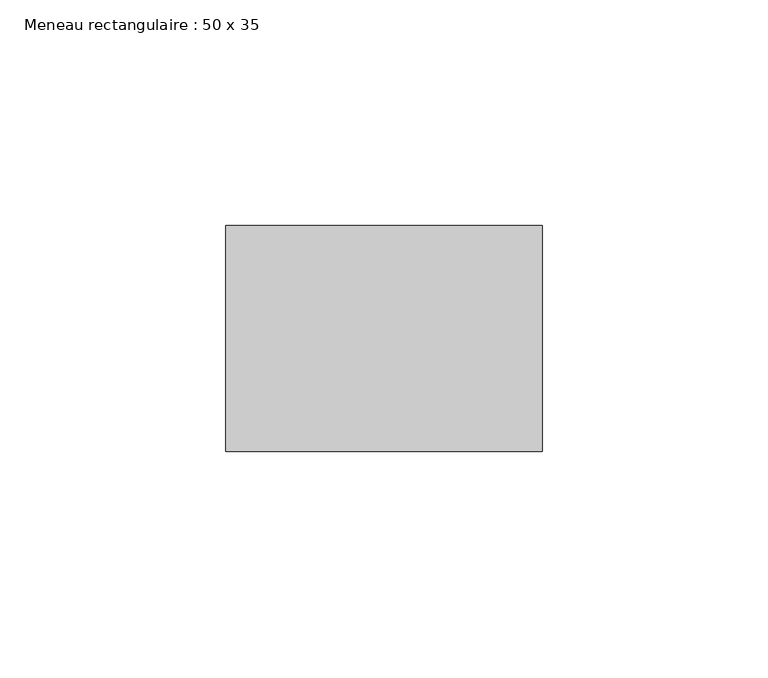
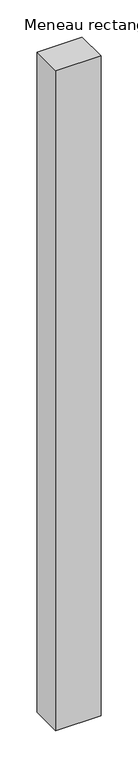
"""IFC4 building model written with IfcOpenShell, lengths in millimetres: member geometry, Meneau rectangulaire : 50 x 35."""

from ifc_helpers import new_model, si_unit, frame, origin, place, context, project, spatial, polyline, outline, extrude, source, transform, mapped, element, save


def meneau_rectangulaire_50_x_35_e2e6d1d4(model_context):
    return source(origin(), model_context, "Body", "SweptSolid", [
        extrude(outline(polyline([(35.0, 0.0), (35.0, -50.0), (-35.0, -50.0), (-35.0, 0.0), (35.0, 0.0)])), frame((0.0, 0.0, -1081.6467944), z_axis=(0.0, 0.0, 1.0), x_axis=(1.0, 0.0, 0.0)), (0.0, 0.0, 1.0), 1081.6467944),
    ])


if __name__ == "__main__":
    model = new_model("IFC4")
    model_context = context("Model", 3, world=origin())
    ifc_project = project(units=[si_unit("LENGTHUNIT", "METRE", prefix="MILLI")], contexts=[model_context])
    site = spatial("IfcSite", under=ifc_project)
    building = spatial("IfcBuilding", under=site)
    placement = place(None, origin())
    meneau_rectangulaire_50_x_35_shape = meneau_rectangulaire_50_x_35_e2e6d1d4(model_context)
    element("IfcMember", 1, ObjectType="Meneau rectangulaire : 50 x 35", at=placement, inside=building, context=model_context, shape_type="MappedRepresentation", body=[
        mapped(meneau_rectangulaire_50_x_35_shape, transform((0.0, 0.0, 0.0), x_axis=(1.0, 0.0, 0.0), y_axis=(0.0, 1.0, 0.0), z_axis=(0.0, 0.0, 1.0))),
    ])
    save(model, "model.ifc")
